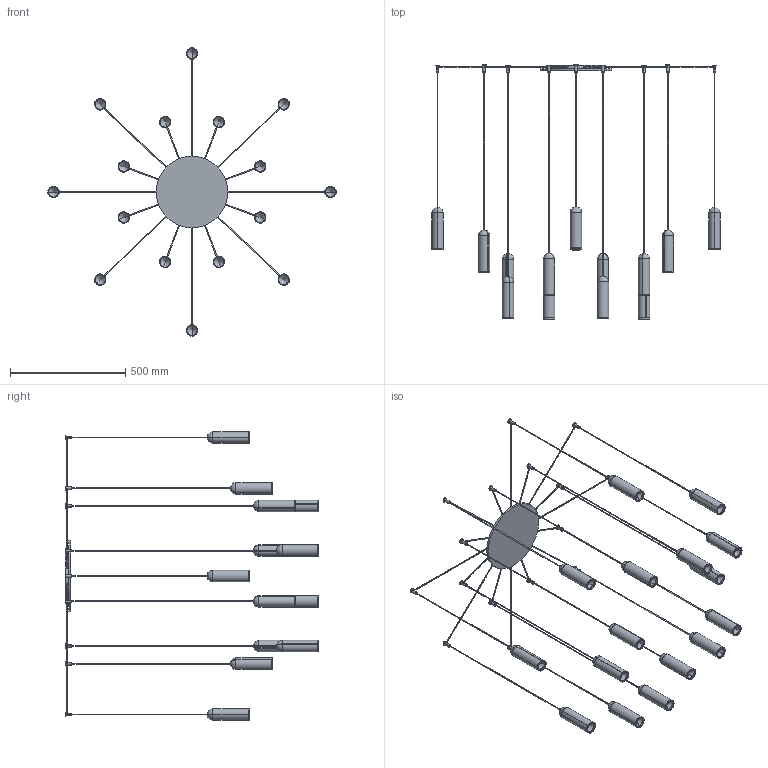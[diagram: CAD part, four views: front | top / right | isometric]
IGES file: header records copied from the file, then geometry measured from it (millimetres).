
Start section: SolidWorks IGES file using analytic representation for surfaces
Global section: file name: Y:\eforma\TECNICO\SOLIDWORKS\E-FORMA\09-LAMPADE\NANUM\08 modelli 3D web\NANC1-00-NANUM 16 C ROSONE CENTRALE.IGS; native system: SolidWorks 2022; preprocessor: SolidWorks 2022; author: eforma.tech; date: 240801.144334; units: millimetre
Bounding box: 1250 x 1100 x 1250 mm (x, y, z)
Volume: 2630221.2 mm3; surface area: 1392119.8 mm2
Topology: 48 solids, 48 shells, 604 faces, 1188 edges, 681 vertices
Faces by surface type: revolution 489, plane 115
